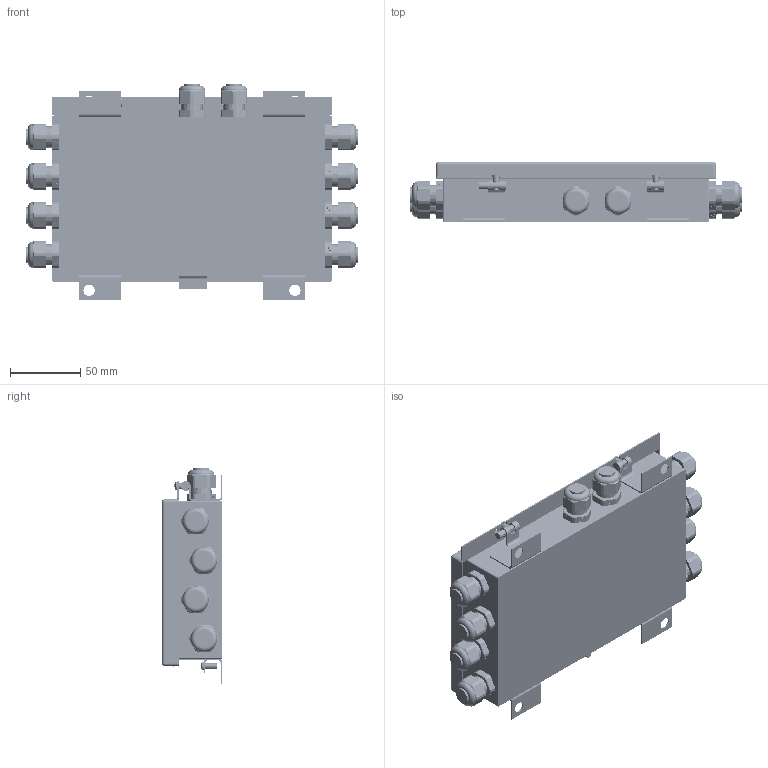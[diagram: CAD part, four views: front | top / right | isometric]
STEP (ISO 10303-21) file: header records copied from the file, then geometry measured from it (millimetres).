
FILE_DESCRIPTION((''),'1');
FILE_NAME('ETLB_8-channel_stainless.step','2023-11-06T13:17:58',(''),(''),'','','');
FILE_SCHEMA(('AUTOMOTIVE_DESIGN { 1 0 10303 214 1 1 1 1 }'));
Products named in the file (51): ETLB part 01; ETLB circuit board 01; ETLB part 03; ETLB screw 01; ETLB part 04; ETLB part 05; ETLB display 01; ETLB display 02; ETLB spacer 01; ETLB spacer 02; ETLB part 06; ETLB part 07; ETLB part 08; ETLB part 09; ETLB button 01; ETLB part 10; ETLB cover 01; ETLB nut 01; ETLB connector 01; 1; 12; 13; ETLB part 12; ETLB part 13; 2; 22; 23; ETLB 8-channel_stainless; ETLB part 15; ETLB cover 03; ETLB part 16; ETLB screw 03; ETLB pin 01; ETLB pin 02; ETLB bracket 01; ETLB cable gland 01; ETLB plug 01; ETLB cable gland 02; ETLB seal 01; ETLB nut 02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
Assembly tree (133 placements, depth 6):
  ETLB 8-channel_stainless
    ETLB part 01
      ETLB circuit board 01
      ETLB part 03
        ETLB screw 01  x4
        ETLB part 04
        ETLB part 05
        ETLB display 01
        ETLB display 02
        ETLB spacer 01  x2
        ETLB spacer 02  x4
        ETLB part 06  x4
        ETLB part 07
        ETLB part 08
        ETLB part 09  x2
        ETLB button 01  x4
      ETLB part 10
        ETLB cover 01
        ETLB nut 01  x4
        ETLB connector 01
        ETLB part 12
          1
            12  x10
            13  x10
          ETLB part 13
          2
            22  x4
            23
    ETLB part 15
      ETLB cover 03
      ETLB part 16
      ETLB screw 03  x3
      ETLB pin 01
      ETLB pin 02
      ETLB bracket 01  x2
      ETLB cable gland 01
        ETLB plug 01
        ETLB cable gland 02
        ETLB seal 01
        ETLB nut 02
      ETLB cable gland 01
        ETLB plug 01
        ETLB cable gland 02
        ETLB seal 01
        ETLB nut 02
      ETLB cable gland 01
        ETLB plug 01
        ETLB cable gland 02
        ETLB seal 01
        ETLB nut 02
      ETLB cable gland 01
        ETLB plug 01
        ETLB cable gland 02
        ETLB seal 01
        ETLB nut 02
      ETLB cable gland 01
        ETLB plug 01
        ETLB cable gland 02
        ETLB seal 01
        ETLB nut 02
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Bounding box: 237 x 43 x 154.5 mm (x, y, z)
Volume: 258079.6 mm3; surface area: 295473.1 mm2
Topology: 116 solids, 116 shells, 11545 faces, 29239 edges, 18919 vertices
Faces by surface type: plane 6758, cylinder 3530, cone 796, torus 402, sphere 59
Entity records: 141805 total; most frequent: CARTESIAN_POINT 25135, DIRECTION 21580, ORIENTED_EDGE 21354, EDGE_CURVE 10677, LINE 7386, VECTOR 7386, AXIS2_PLACEMENT_3D 7097, VERTEX_POINT 6910
